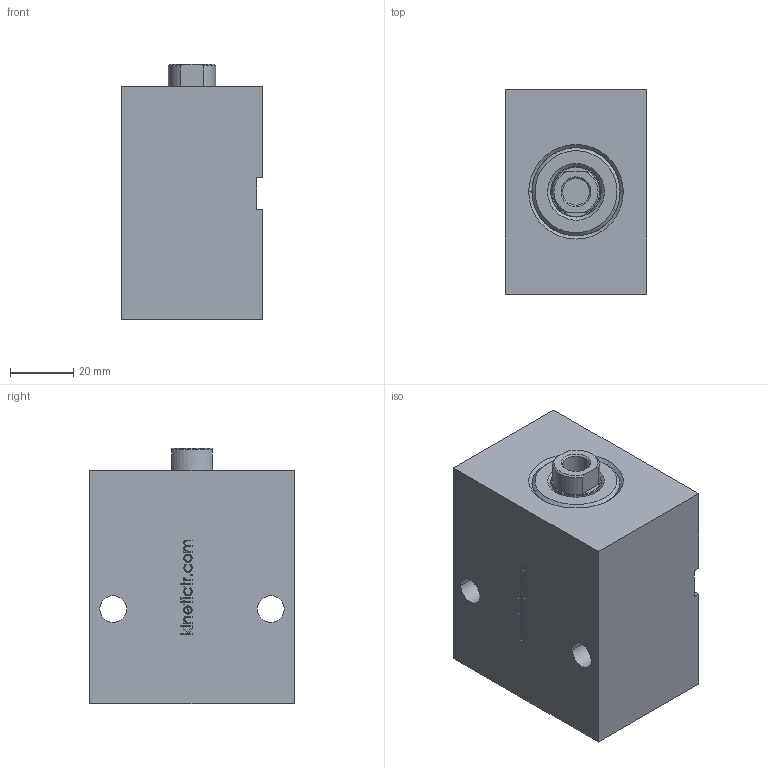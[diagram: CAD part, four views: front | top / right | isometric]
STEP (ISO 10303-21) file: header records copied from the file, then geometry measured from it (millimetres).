
FILE_DESCRIPTION (( 'STEP AP214' ), '1' );
FILE_NAME ('KBZ_11_25_16_30.STEP', '2019-09-11T19:13:13', ( '' ), ( '' ), 'SwSTEP 2.0', 'SolidWorks 2018', '' );
FILE_SCHEMA (( 'AUTOMOTIVE_DESIGN' ));
Length unit declared in the file: millimetre
Products named in the file (4): KBZ_11_25_16_30; KAPAK; MIL; GOVDE
Assembly tree (3 placements, depth 2):
  KBZ_11_25_16_30
    GOVDE
    KAPAK
    MIL
Bounding box: 45 x 65 x 81 mm (x, y, z)
Volume: 210944.3 mm3; surface area: 29244.3 mm2
Topology: 3 solids, 3 shells, 232 faces, 586 edges, 386 vertices
Faces by surface type: plane 117, bspline 69, cylinder 29, cone 17
Entity records: 10254 total; most frequent: CARTESIAN_POINT 4915, ORIENTED_EDGE 1172, DIRECTION 858, EDGE_CURVE 586, VERTEX_POINT 386, VECTOR 368, LINE 368, EDGE_LOOP 264
